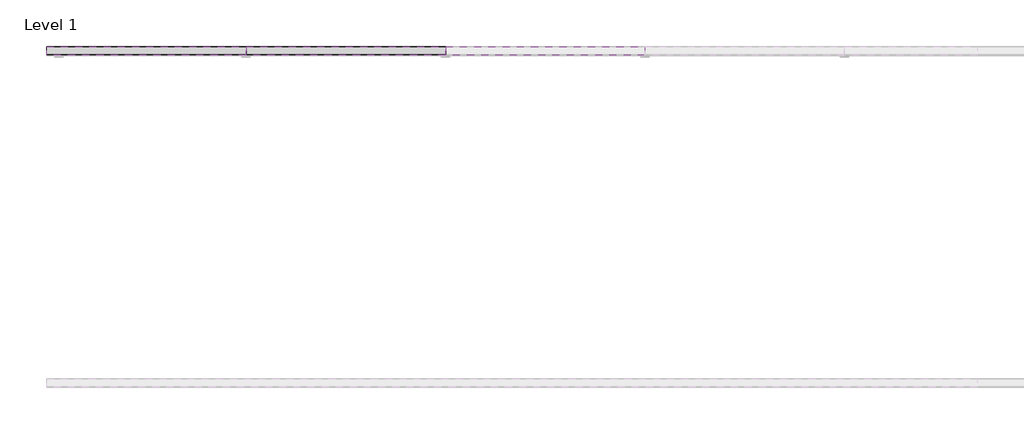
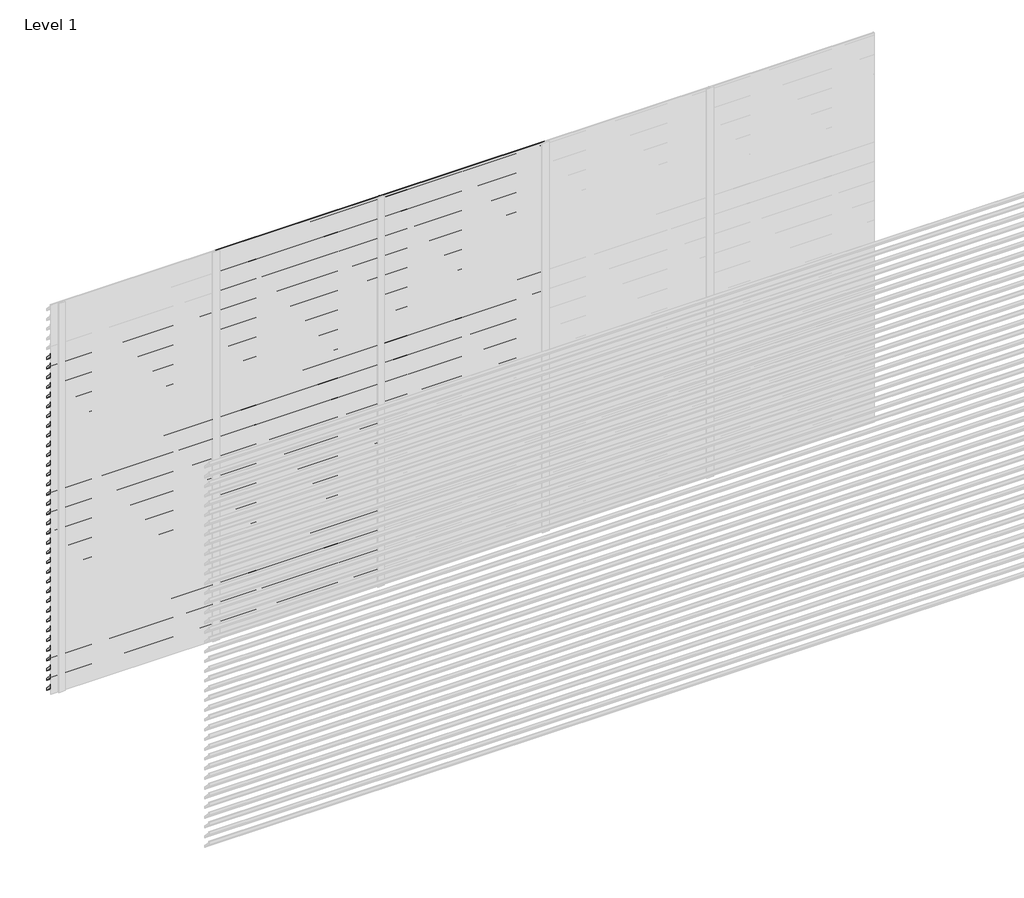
# One storey, part 10 of 11: 98 proxies.
"""IFC4 building model written with IfcOpenShell, lengths in millimetres."""

from ifc_helpers import new_model, si_unit, frame, origin, place, context, project, spatial, polyline, outline, extrude, element, save

model = new_model("IFC4")

# Units and contexts
model_context = context("Model", 3, world=origin())
ifc_project = project(units=[si_unit("LENGTHUNIT", "METRE", prefix="MILLI")], contexts=[model_context])

# Site, building, storey
site = spatial("IfcSite", under=ifc_project)
building = spatial("IfcBuilding", under=site)
storey = spatial("IfcBuildingStorey", under=building, Name="Level 1", Elevation=0.0)

# Proxies
placement = place(None, origin())
element("IfcBuildingElementProxy", 1, Name="Wall Sweeps", at=placement, inside=storey, context=model_context, shape_type="SweptSolid", body=[
    extrude(outline(polyline([(5.0, 2625.0), (5.0, 2615.7409854), (54.0, 2565.0), (54.0, 2549.0), (3.0, 2601.812046), (3.0, 2625.0), (5.0, 2625.0)])), frame((0.0, 0.0, 0.0), z_axis=(1.0, 0.0, 0.0), x_axis=(0.0, 1.0, 0.0)), (0.0, 0.0, 1.0), 1200.0),
])
element("IfcBuildingElementProxy", 2, Name="Wall Sweeps", at=placement, inside=storey, context=model_context, shape_type="SweptSolid", body=[
    extrude(outline(polyline([(5.0, 2550.0), (5.0, 2540.7409854), (54.0, 2490.0), (54.0, 2474.0), (3.0, 2526.812046), (3.0, 2550.0), (5.0, 2550.0)])), frame((0.0, 0.0, 0.0), z_axis=(1.0, 0.0, 0.0), x_axis=(0.0, 1.0, 0.0)), (0.0, 0.0, 1.0), 1200.0),
])
element("IfcBuildingElementProxy", 3, Name="Wall Sweeps", at=placement, inside=storey, context=model_context, shape_type="SweptSolid", body=[
    extrude(outline(polyline([(5.0, 2475.0), (5.0, 2465.7409854), (54.0, 2415.0), (54.0, 2399.0), (3.0, 2451.812046), (3.0, 2475.0), (5.0, 2475.0)])), frame((0.0, 0.0, 0.0), z_axis=(1.0, 0.0, 0.0), x_axis=(0.0, 1.0, 0.0)), (0.0, 0.0, 1.0), 1200.0),
])
element("IfcBuildingElementProxy", 4, Name="Wall Sweeps", at=placement, inside=storey, context=model_context, shape_type="SweptSolid", body=[
    extrude(outline(polyline([(5.0, 2400.0), (5.0, 2390.7409854), (54.0, 2340.0), (54.0, 2324.0), (3.0, 2376.812046), (3.0, 2400.0), (5.0, 2400.0)])), frame((0.0, 0.0, 0.0), z_axis=(1.0, 0.0, 0.0), x_axis=(0.0, 1.0, 0.0)), (0.0, 0.0, 1.0), 1200.0),
])
element("IfcBuildingElementProxy", 5, Name="Wall Sweeps", at=placement, inside=storey, context=model_context, shape_type="SweptSolid", body=[
    extrude(outline(polyline([(5.0, 2325.0), (5.0, 2315.7409854), (54.0, 2265.0), (54.0, 2249.0), (3.0, 2301.812046), (3.0, 2325.0), (5.0, 2325.0)])), frame((0.0, 0.0, 0.0), z_axis=(1.0, 0.0, 0.0), x_axis=(0.0, 1.0, 0.0)), (0.0, 0.0, 1.0), 1200.0),
])
element("IfcBuildingElementProxy", 6, Name="Wall Sweeps", at=placement, inside=storey, context=model_context, shape_type="SweptSolid", body=[
    extrude(outline(polyline([(5.0, 2250.0), (5.0, 2240.7409854), (54.0, 2190.0), (54.0, 2174.0), (3.0, 2226.812046), (3.0, 2250.0), (5.0, 2250.0)])), frame((0.0, 0.0, 0.0), z_axis=(1.0, 0.0, 0.0), x_axis=(0.0, 1.0, 0.0)), (0.0, 0.0, 1.0), 1200.0),
])
element("IfcBuildingElementProxy", 7, Name="Wall Sweeps", at=placement, inside=storey, context=model_context, shape_type="SweptSolid", body=[
    extrude(outline(polyline([(5.0, 2175.0), (5.0, 2165.7409854), (54.0, 2115.0), (54.0, 2099.0), (3.0, 2151.812046), (3.0, 2175.0), (5.0, 2175.0)])), frame((0.0, 0.0, 0.0), z_axis=(1.0, 0.0, 0.0), x_axis=(0.0, 1.0, 0.0)), (0.0, 0.0, 1.0), 1200.0),
])
element("IfcBuildingElementProxy", 8, Name="Wall Sweeps", at=placement, inside=storey, context=model_context, shape_type="SweptSolid", body=[
    extrude(outline(polyline([(5.0, 2100.0), (5.0, 2090.7409854), (54.0, 2040.0), (54.0, 2024.0), (3.0, 2076.812046), (3.0, 2100.0), (5.0, 2100.0)])), frame((0.0, 0.0, 0.0), z_axis=(1.0, 0.0, 0.0), x_axis=(0.0, 1.0, 0.0)), (0.0, 0.0, 1.0), 1200.0),
])
element("IfcBuildingElementProxy", 9, Name="Wall Sweeps", at=placement, inside=storey, context=model_context, shape_type="SweptSolid", body=[
    extrude(outline(polyline([(5.0, 2025.0), (5.0, 2015.7409854), (54.0, 1965.0), (54.0, 1949.0), (3.0, 2001.812046), (3.0, 2025.0), (5.0, 2025.0)])), frame((0.0, 0.0, 0.0), z_axis=(1.0, 0.0, 0.0), x_axis=(0.0, 1.0, 0.0)), (0.0, 0.0, 1.0), 1200.0),
])
element("IfcBuildingElementProxy", 10, Name="Wall Sweeps", at=placement, inside=storey, context=model_context, shape_type="SweptSolid", body=[
    extrude(outline(polyline([(5.0, 1950.0), (5.0, 1940.7409854), (54.0, 1890.0), (54.0, 1874.0), (3.0, 1926.812046), (3.0, 1950.0), (5.0, 1950.0)])), frame((0.0, 0.0, 0.0), z_axis=(1.0, 0.0, 0.0), x_axis=(0.0, 1.0, 0.0)), (0.0, 0.0, 1.0), 1200.0),
])
element("IfcBuildingElementProxy", 11, Name="Wall Sweeps", at=placement, inside=storey, context=model_context, shape_type="SweptSolid", body=[
    extrude(outline(polyline([(5.0, 1875.0), (5.0, 1865.7409854), (54.0, 1815.0), (54.0, 1799.0), (3.0, 1851.812046), (3.0, 1875.0), (5.0, 1875.0)])), frame((0.0, 0.0, 0.0), z_axis=(1.0, 0.0, 0.0), x_axis=(0.0, 1.0, 0.0)), (0.0, 0.0, 1.0), 1200.0),
])
element("IfcBuildingElementProxy", 12, Name="Wall Sweeps", at=placement, inside=storey, context=model_context, shape_type="SweptSolid", body=[
    extrude(outline(polyline([(5.0, 1800.0), (5.0, 1790.7409854), (54.0, 1740.0), (54.0, 1724.0), (3.0, 1776.812046), (3.0, 1800.0), (5.0, 1800.0)])), frame((0.0, 0.0, 0.0), z_axis=(1.0, 0.0, 0.0), x_axis=(0.0, 1.0, 0.0)), (0.0, 0.0, 1.0), 1200.0),
])
element("IfcBuildingElementProxy", 13, Name="Wall Sweeps", at=placement, inside=storey, context=model_context, shape_type="SweptSolid", body=[
    extrude(outline(polyline([(5.0, 1725.0), (5.0, 1715.7409854), (54.0, 1665.0), (54.0, 1649.0), (3.0, 1701.812046), (3.0, 1725.0), (5.0, 1725.0)])), frame((0.0, 0.0, 0.0), z_axis=(1.0, 0.0, 0.0), x_axis=(0.0, 1.0, 0.0)), (0.0, 0.0, 1.0), 1200.0),
])
element("IfcBuildingElementProxy", 14, Name="Wall Sweeps", at=placement, inside=storey, context=model_context, shape_type="SweptSolid", body=[
    extrude(outline(polyline([(5.0, 1650.0), (5.0, 1640.7409854), (54.0, 1590.0), (54.0, 1574.0), (3.0, 1626.812046), (3.0, 1650.0), (5.0, 1650.0)])), frame((0.0, 0.0, 0.0), z_axis=(1.0, 0.0, 0.0), x_axis=(0.0, 1.0, 0.0)), (0.0, 0.0, 1.0), 1200.0),
])
element("IfcBuildingElementProxy", 15, Name="Wall Sweeps", at=placement, inside=storey, context=model_context, shape_type="SweptSolid", body=[
    extrude(outline(polyline([(5.0, 1575.0), (5.0, 1565.7409854), (54.0, 1515.0), (54.0, 1499.0), (3.0, 1551.812046), (3.0, 1575.0), (5.0, 1575.0)])), frame((0.0, 0.0, 0.0), z_axis=(1.0, 0.0, 0.0), x_axis=(0.0, 1.0, 0.0)), (0.0, 0.0, 1.0), 1200.0),
])
element("IfcBuildingElementProxy", 16, Name="Wall Sweeps", at=placement, inside=storey, context=model_context, shape_type="SweptSolid", body=[
    extrude(outline(polyline([(5.0, 1500.0), (5.0, 1490.7409854), (54.0, 1440.0), (54.0, 1424.0), (3.0, 1476.812046), (3.0, 1500.0), (5.0, 1500.0)])), frame((0.0, 0.0, 0.0), z_axis=(1.0, 0.0, 0.0), x_axis=(0.0, 1.0, 0.0)), (0.0, 0.0, 1.0), 1200.0),
])
element("IfcBuildingElementProxy", 17, Name="Wall Sweeps", at=placement, inside=storey, context=model_context, shape_type="SweptSolid", body=[
    extrude(outline(polyline([(5.0, 1425.0), (5.0, 1415.7409854), (54.0, 1365.0), (54.0, 1349.0), (3.0, 1401.812046), (3.0, 1425.0), (5.0, 1425.0)])), frame((0.0, 0.0, 0.0), z_axis=(1.0, 0.0, 0.0), x_axis=(0.0, 1.0, 0.0)), (0.0, 0.0, 1.0), 1200.0),
])
element("IfcBuildingElementProxy", 18, Name="Wall Sweeps", at=placement, inside=storey, context=model_context, shape_type="SweptSolid", body=[
    extrude(outline(polyline([(5.0, 1350.0), (5.0, 1340.7409854), (54.0, 1290.0), (54.0, 1274.0), (3.0, 1326.812046), (3.0, 1350.0), (5.0, 1350.0)])), frame((0.0, 0.0, 0.0), z_axis=(1.0, 0.0, 0.0), x_axis=(0.0, 1.0, 0.0)), (0.0, 0.0, 1.0), 1200.0),
])
element("IfcBuildingElementProxy", 19, Name="Wall Sweeps", at=placement, inside=storey, context=model_context, shape_type="SweptSolid", body=[
    extrude(outline(polyline([(5.0, 1275.0), (5.0, 1265.7409854), (54.0, 1215.0), (54.0, 1199.0), (3.0, 1251.812046), (3.0, 1275.0), (5.0, 1275.0)])), frame((0.0, 0.0, 0.0), z_axis=(1.0, 0.0, 0.0), x_axis=(0.0, 1.0, 0.0)), (0.0, 0.0, 1.0), 1200.0),
])
element("IfcBuildingElementProxy", 20, Name="Wall Sweeps", at=placement, inside=storey, context=model_context, shape_type="SweptSolid", body=[
    extrude(outline(polyline([(5.0, 1200.0), (5.0, 1190.7409854), (54.0, 1140.0), (54.0, 1124.0), (3.0, 1176.812046), (3.0, 1200.0), (5.0, 1200.0)])), frame((0.0, 0.0, 0.0), z_axis=(1.0, 0.0, 0.0), x_axis=(0.0, 1.0, 0.0)), (0.0, 0.0, 1.0), 1200.0),
])
element("IfcBuildingElementProxy", 21, Name="Wall Sweeps", at=placement, inside=storey, context=model_context, shape_type="SweptSolid", body=[
    extrude(outline(polyline([(5.0, 1125.0), (5.0, 1115.7409854), (54.0, 1065.0), (54.0, 1049.0), (3.0, 1101.812046), (3.0, 1125.0), (5.0, 1125.0)])), frame((0.0, 0.0, 0.0), z_axis=(1.0, 0.0, 0.0), x_axis=(0.0, 1.0, 0.0)), (0.0, 0.0, 1.0), 1200.0),
])
element("IfcBuildingElementProxy", 22, Name="Wall Sweeps", at=placement, inside=storey, context=model_context, shape_type="SweptSolid", body=[
    extrude(outline(polyline([(5.0, 1050.0), (5.0, 1040.7409854), (54.0, 990.0), (54.0, 974.0), (3.0, 1026.812046), (3.0, 1050.0), (5.0, 1050.0)])), frame((0.0, 0.0, 0.0), z_axis=(1.0, 0.0, 0.0), x_axis=(0.0, 1.0, 0.0)), (0.0, 0.0, 1.0), 1200.0),
])
element("IfcBuildingElementProxy", 23, Name="Wall Sweeps", at=placement, inside=storey, context=model_context, shape_type="SweptSolid", body=[
    extrude(outline(polyline([(5.0, 975.0), (5.0, 965.7409854), (54.0, 915.0), (54.0, 899.0), (3.0, 951.812046), (3.0, 975.0), (5.0, 975.0)])), frame((0.0, 0.0, 0.0), z_axis=(1.0, 0.0, 0.0), x_axis=(0.0, 1.0, 0.0)), (0.0, 0.0, 1.0), 1200.0),
])
element("IfcBuildingElementProxy", 24, Name="Wall Sweeps", at=placement, inside=storey, context=model_context, shape_type="SweptSolid", body=[
    extrude(outline(polyline([(5.0, 900.0), (5.0, 890.7409854), (54.0, 840.0), (54.0, 824.0), (3.0, 876.812046), (3.0, 900.0), (5.0, 900.0)])), frame((0.0, 0.0, 0.0), z_axis=(1.0, 0.0, 0.0), x_axis=(0.0, 1.0, 0.0)), (0.0, 0.0, 1.0), 1200.0),
])
element("IfcBuildingElementProxy", 25, Name="Wall Sweeps", at=placement, inside=storey, context=model_context, shape_type="SweptSolid", body=[
    extrude(outline(polyline([(5.0, 825.0), (5.0, 815.7409854), (54.0, 765.0), (54.0, 749.0), (3.0, 801.812046), (3.0, 825.0), (5.0, 825.0)])), frame((0.0, 0.0, 0.0), z_axis=(1.0, 0.0, 0.0), x_axis=(0.0, 1.0, 0.0)), (0.0, 0.0, 1.0), 1200.0),
])
element("IfcBuildingElementProxy", 26, Name="Wall Sweeps", at=placement, inside=storey, context=model_context, shape_type="SweptSolid", body=[
    extrude(outline(polyline([(5.0, 750.0), (5.0, 740.7409854), (54.0, 690.0), (54.0, 674.0), (3.0, 726.812046), (3.0, 750.0), (5.0, 750.0)])), frame((0.0, 0.0, 0.0), z_axis=(1.0, 0.0, 0.0), x_axis=(0.0, 1.0, 0.0)), (0.0, 0.0, 1.0), 1200.0),
])
element("IfcBuildingElementProxy", 27, Name="Wall Sweeps", at=placement, inside=storey, context=model_context, shape_type="SweptSolid", body=[
    extrude(outline(polyline([(5.0, 675.0), (5.0, 665.7409854), (54.0, 615.0), (54.0, 599.0), (3.0, 651.812046), (3.0, 675.0), (5.0, 675.0)])), frame((0.0, 0.0, 0.0), z_axis=(1.0, 0.0, 0.0), x_axis=(0.0, 1.0, 0.0)), (0.0, 0.0, 1.0), 1200.0),
])
element("IfcBuildingElementProxy", 28, Name="Wall Sweeps", at=placement, inside=storey, context=model_context, shape_type="SweptSolid", body=[
    extrude(outline(polyline([(5.0, 600.0), (5.0, 590.7409854), (54.0, 540.0), (54.0, 524.0), (3.0, 576.812046), (3.0, 600.0), (5.0, 600.0)])), frame((0.0, 0.0, 0.0), z_axis=(1.0, 0.0, 0.0), x_axis=(0.0, 1.0, 0.0)), (0.0, 0.0, 1.0), 1200.0),
])
element("IfcBuildingElementProxy", 29, Name="Wall Sweeps", at=placement, inside=storey, context=model_context, shape_type="SweptSolid", body=[
    extrude(outline(polyline([(5.0, 525.0), (5.0, 515.7409854), (54.0, 465.0), (54.0, 449.0), (3.0, 501.812046), (3.0, 525.0), (5.0, 525.0)])), frame((0.0, 0.0, 0.0), z_axis=(1.0, 0.0, 0.0), x_axis=(0.0, 1.0, 0.0)), (0.0, 0.0, 1.0), 1200.0),
])
element("IfcBuildingElementProxy", 30, Name="Wall Sweeps", at=placement, inside=storey, context=model_context, shape_type="SweptSolid", body=[
    extrude(outline(polyline([(5.0, 450.0), (5.0, 440.7409854), (54.0, 390.0), (54.0, 374.0), (3.0, 426.812046), (3.0, 450.0), (5.0, 450.0)])), frame((0.0, 0.0, 0.0), z_axis=(1.0, 0.0, 0.0), x_axis=(0.0, 1.0, 0.0)), (0.0, 0.0, 1.0), 1200.0),
])
element("IfcBuildingElementProxy", 31, Name="Wall Sweeps", at=placement, inside=storey, context=model_context, shape_type="SweptSolid", body=[
    extrude(outline(polyline([(5.0, 375.0), (5.0, 365.7409854), (54.0, 315.0), (54.0, 299.0), (3.0, 351.812046), (3.0, 375.0), (5.0, 375.0)])), frame((0.0, 0.0, 0.0), z_axis=(1.0, 0.0, 0.0), x_axis=(0.0, 1.0, 0.0)), (0.0, 0.0, 1.0), 1200.0),
])
element("IfcBuildingElementProxy", 32, Name="Wall Sweeps", at=placement, inside=storey, context=model_context, shape_type="SweptSolid", body=[
    extrude(outline(polyline([(5.0, 300.0), (5.0, 290.7409854), (54.0, 240.0), (54.0, 224.0), (3.0, 276.812046), (3.0, 300.0), (5.0, 300.0)])), frame((0.0, 0.0, 0.0), z_axis=(1.0, 0.0, 0.0), x_axis=(0.0, 1.0, 0.0)), (0.0, 0.0, 1.0), 1200.0),
])
element("IfcBuildingElementProxy", 33, Name="Wall Sweeps", at=placement, inside=storey, context=model_context, shape_type="SweptSolid", body=[
    extrude(outline(polyline([(5.0, 225.0), (5.0, 215.7409854), (54.0, 165.0), (54.0, 149.0), (3.0, 201.812046), (3.0, 225.0), (5.0, 225.0)])), frame((0.0, 0.0, 0.0), z_axis=(1.0, 0.0, 0.0), x_axis=(0.0, 1.0, 0.0)), (0.0, 0.0, 1.0), 1200.0),
])
element("IfcBuildingElementProxy", 34, Name="Wall Sweeps", at=placement, inside=storey, context=model_context, shape_type="SweptSolid", body=[
    extrude(outline(polyline([(5.0, 150.0), (5.0, 140.7409854), (54.0, 90.0), (54.0, 74.0), (3.0, 126.812046), (3.0, 150.0), (5.0, 150.0)])), frame((0.0, 0.0, 0.0), z_axis=(1.0, 0.0, 0.0), x_axis=(0.0, 1.0, 0.0)), (0.0, 0.0, 1.0), 1200.0),
])
element("IfcBuildingElementProxy", 35, Name="Wall Sweeps", at=placement, inside=storey, context=model_context, shape_type="SweptSolid", body=[
    extrude(outline(polyline([(5.0, 75.0), (5.0, 65.7409854), (54.0, 15.0), (54.0, -1.0), (3.0, 51.812046), (3.0, 75.0), (5.0, 75.0)])), frame((0.0, 0.0, 0.0), z_axis=(1.0, 0.0, 0.0), x_axis=(0.0, 1.0, 0.0)), (0.0, 0.0, 1.0), 1200.0),
])
element("IfcBuildingElementProxy", 36, Name="Wall Sweeps", at=placement, inside=storey, context=model_context, shape_type="SweptSolid", body=[
    extrude(outline(polyline([(5.0, 3000.0), (5.0, 2990.7409854), (54.0, 2940.0), (54.0, 2924.0), (3.0, 2976.812046), (3.0, 3000.0), (5.0, 3000.0)])), frame((1200.0, 0.0, 0.0), z_axis=(1.0, 0.0, 0.0), x_axis=(0.0, 1.0, 0.0)), (0.0, 0.0, 1.0), 1200.0),
])
element("IfcBuildingElementProxy", 37, Name="Wall Sweeps", at=placement, inside=storey, context=model_context, shape_type="SweptSolid", body=[
    extrude(outline(polyline([(5.0, 2925.0), (5.0, 2915.7409854), (54.0, 2865.0), (54.0, 2849.0), (3.0, 2901.812046), (3.0, 2925.0), (5.0, 2925.0)])), frame((1200.0, 0.0, 0.0), z_axis=(1.0, 0.0, 0.0), x_axis=(0.0, 1.0, 0.0)), (0.0, 0.0, 1.0), 1200.0),
])
element("IfcBuildingElementProxy", 38, Name="Wall Sweeps", at=placement, inside=storey, context=model_context, shape_type="SweptSolid", body=[
    extrude(outline(polyline([(5.0, 2850.0), (5.0, 2840.7409854), (54.0, 2790.0), (54.0, 2774.0), (3.0, 2826.812046), (3.0, 2850.0), (5.0, 2850.0)])), frame((1200.0, 0.0, 0.0), z_axis=(1.0, 0.0, 0.0), x_axis=(0.0, 1.0, 0.0)), (0.0, 0.0, 1.0), 1200.0),
])
element("IfcBuildingElementProxy", 39, Name="Wall Sweeps", at=placement, inside=storey, context=model_context, shape_type="SweptSolid", body=[
    extrude(outline(polyline([(5.0, 2775.0), (5.0, 2765.7409854), (54.0, 2715.0), (54.0, 2699.0), (3.0, 2751.812046), (3.0, 2775.0), (5.0, 2775.0)])), frame((1200.0, 0.0, 0.0), z_axis=(1.0, 0.0, 0.0), x_axis=(0.0, 1.0, 0.0)), (0.0, 0.0, 1.0), 1200.0),
])
element("IfcBuildingElementProxy", 40, Name="Wall Sweeps", at=placement, inside=storey, context=model_context, shape_type="SweptSolid", body=[
    extrude(outline(polyline([(5.0, 2700.0), (5.0, 2690.7409854), (54.0, 2640.0), (54.0, 2624.0), (3.0, 2676.812046), (3.0, 2700.0), (5.0, 2700.0)])), frame((1200.0, 0.0, 0.0), z_axis=(1.0, 0.0, 0.0), x_axis=(0.0, 1.0, 0.0)), (0.0, 0.0, 1.0), 1200.0),
])
element("IfcBuildingElementProxy", 41, Name="Wall Sweeps", at=placement, inside=storey, context=model_context, shape_type="SweptSolid", body=[
    extrude(outline(polyline([(5.0, 2625.0), (5.0, 2615.7409854), (54.0, 2565.0), (54.0, 2549.0), (3.0, 2601.812046), (3.0, 2625.0), (5.0, 2625.0)])), frame((1200.0, 0.0, 0.0), z_axis=(1.0, 0.0, 0.0), x_axis=(0.0, 1.0, 0.0)), (0.0, 0.0, 1.0), 1200.0),
])
element("IfcBuildingElementProxy", 42, Name="Wall Sweeps", at=placement, inside=storey, context=model_context, shape_type="SweptSolid", body=[
    extrude(outline(polyline([(5.0, 2550.0), (5.0, 2540.7409854), (54.0, 2490.0), (54.0, 2474.0), (3.0, 2526.812046), (3.0, 2550.0), (5.0, 2550.0)])), frame((1200.0, 0.0, 0.0), z_axis=(1.0, 0.0, 0.0), x_axis=(0.0, 1.0, 0.0)), (0.0, 0.0, 1.0), 1200.0),
])
element("IfcBuildingElementProxy", 43, Name="Wall Sweeps", at=placement, inside=storey, context=model_context, shape_type="SweptSolid", body=[
    extrude(outline(polyline([(5.0, 2475.0), (5.0, 2465.7409854), (54.0, 2415.0), (54.0, 2399.0), (3.0, 2451.812046), (3.0, 2475.0), (5.0, 2475.0)])), frame((1200.0, 0.0, 0.0), z_axis=(1.0, 0.0, 0.0), x_axis=(0.0, 1.0, 0.0)), (0.0, 0.0, 1.0), 1200.0),
])
element("IfcBuildingElementProxy", 44, Name="Wall Sweeps", at=placement, inside=storey, context=model_context, shape_type="SweptSolid", body=[
    extrude(outline(polyline([(5.0, 2400.0), (5.0, 2390.7409854), (54.0, 2340.0), (54.0, 2324.0), (3.0, 2376.812046), (3.0, 2400.0), (5.0, 2400.0)])), frame((1200.0, 0.0, 0.0), z_axis=(1.0, 0.0, 0.0), x_axis=(0.0, 1.0, 0.0)), (0.0, 0.0, 1.0), 1200.0),
])
element("IfcBuildingElementProxy", 45, Name="Wall Sweeps", at=placement, inside=storey, context=model_context, shape_type="SweptSolid", body=[
    extrude(outline(polyline([(5.0, 2325.0), (5.0, 2315.7409854), (54.0, 2265.0), (54.0, 2249.0), (3.0, 2301.812046), (3.0, 2325.0), (5.0, 2325.0)])), frame((1200.0, 0.0, 0.0), z_axis=(1.0, 0.0, 0.0), x_axis=(0.0, 1.0, 0.0)), (0.0, 0.0, 1.0), 1200.0),
])
element("IfcBuildingElementProxy", 46, Name="Wall Sweeps", at=placement, inside=storey, context=model_context, shape_type="SweptSolid", body=[
    extrude(outline(polyline([(5.0, 2250.0), (5.0, 2240.7409854), (54.0, 2190.0), (54.0, 2174.0), (3.0, 2226.812046), (3.0, 2250.0), (5.0, 2250.0)])), frame((1200.0, 0.0, 0.0), z_axis=(1.0, 0.0, 0.0), x_axis=(0.0, 1.0, 0.0)), (0.0, 0.0, 1.0), 1200.0),
])
element("IfcBuildingElementProxy", 47, Name="Wall Sweeps", at=placement, inside=storey, context=model_context, shape_type="SweptSolid", body=[
    extrude(outline(polyline([(5.0, 2175.0), (5.0, 2165.7409854), (54.0, 2115.0), (54.0, 2099.0), (3.0, 2151.812046), (3.0, 2175.0), (5.0, 2175.0)])), frame((1200.0, 0.0, 0.0), z_axis=(1.0, 0.0, 0.0), x_axis=(0.0, 1.0, 0.0)), (0.0, 0.0, 1.0), 1200.0),
])
element("IfcBuildingElementProxy", 48, Name="Wall Sweeps", at=placement, inside=storey, context=model_context, shape_type="SweptSolid", body=[
    extrude(outline(polyline([(5.0, 2100.0), (5.0, 2090.7409854), (54.0, 2040.0), (54.0, 2024.0), (3.0, 2076.812046), (3.0, 2100.0), (5.0, 2100.0)])), frame((1200.0, 0.0, 0.0), z_axis=(1.0, 0.0, 0.0), x_axis=(0.0, 1.0, 0.0)), (0.0, 0.0, 1.0), 1200.0),
])
element("IfcBuildingElementProxy", 49, Name="Wall Sweeps", at=placement, inside=storey, context=model_context, shape_type="SweptSolid", body=[
    extrude(outline(polyline([(5.0, 2025.0), (5.0, 2015.7409854), (54.0, 1965.0), (54.0, 1949.0), (3.0, 2001.812046), (3.0, 2025.0), (5.0, 2025.0)])), frame((1200.0, 0.0, 0.0), z_axis=(1.0, 0.0, 0.0), x_axis=(0.0, 1.0, 0.0)), (0.0, 0.0, 1.0), 1200.0),
])
element("IfcBuildingElementProxy", 50, Name="Wall Sweeps", at=placement, inside=storey, context=model_context, shape_type="SweptSolid", body=[
    extrude(outline(polyline([(5.0, 1950.0), (5.0, 1940.7409854), (54.0, 1890.0), (54.0, 1874.0), (3.0, 1926.812046), (3.0, 1950.0), (5.0, 1950.0)])), frame((1200.0, 0.0, 0.0), z_axis=(1.0, 0.0, 0.0), x_axis=(0.0, 1.0, 0.0)), (0.0, 0.0, 1.0), 1200.0),
])
element("IfcBuildingElementProxy", 51, Name="Wall Sweeps", at=placement, inside=storey, context=model_context, shape_type="SweptSolid", body=[
    extrude(outline(polyline([(5.0, 1875.0), (5.0, 1865.7409854), (54.0, 1815.0), (54.0, 1799.0), (3.0, 1851.812046), (3.0, 1875.0), (5.0, 1875.0)])), frame((1200.0, 0.0, 0.0), z_axis=(1.0, 0.0, 0.0), x_axis=(0.0, 1.0, 0.0)), (0.0, 0.0, 1.0), 1200.0),
])
element("IfcBuildingElementProxy", 52, Name="Wall Sweeps", at=placement, inside=storey, context=model_context, shape_type="SweptSolid", body=[
    extrude(outline(polyline([(5.0, 1800.0), (5.0, 1790.7409854), (54.0, 1740.0), (54.0, 1724.0), (3.0, 1776.812046), (3.0, 1800.0), (5.0, 1800.0)])), frame((1200.0, 0.0, 0.0), z_axis=(1.0, 0.0, 0.0), x_axis=(0.0, 1.0, 0.0)), (0.0, 0.0, 1.0), 1200.0),
])
element("IfcBuildingElementProxy", 53, Name="Wall Sweeps", at=placement, inside=storey, context=model_context, shape_type="SweptSolid", body=[
    extrude(outline(polyline([(5.0, 1725.0), (5.0, 1715.7409854), (54.0, 1665.0), (54.0, 1649.0), (3.0, 1701.812046), (3.0, 1725.0), (5.0, 1725.0)])), frame((1200.0, 0.0, 0.0), z_axis=(1.0, 0.0, 0.0), x_axis=(0.0, 1.0, 0.0)), (0.0, 0.0, 1.0), 1200.0),
])
element("IfcBuildingElementProxy", 54, Name="Wall Sweeps", at=placement, inside=storey, context=model_context, shape_type="SweptSolid", body=[
    extrude(outline(polyline([(5.0, 1650.0), (5.0, 1640.7409854), (54.0, 1590.0), (54.0, 1574.0), (3.0, 1626.812046), (3.0, 1650.0), (5.0, 1650.0)])), frame((1200.0, 0.0, 0.0), z_axis=(1.0, 0.0, 0.0), x_axis=(0.0, 1.0, 0.0)), (0.0, 0.0, 1.0), 1200.0),
])
element("IfcBuildingElementProxy", 55, Name="Wall Sweeps", at=placement, inside=storey, context=model_context, shape_type="SweptSolid", body=[
    extrude(outline(polyline([(5.0, 1575.0), (5.0, 1565.7409854), (54.0, 1515.0), (54.0, 1499.0), (3.0, 1551.812046), (3.0, 1575.0), (5.0, 1575.0)])), frame((1200.0, 0.0, 0.0), z_axis=(1.0, 0.0, 0.0), x_axis=(0.0, 1.0, 0.0)), (0.0, 0.0, 1.0), 1200.0),
])
element("IfcBuildingElementProxy", 56, Name="Wall Sweeps", at=placement, inside=storey, context=model_context, shape_type="SweptSolid", body=[
    extrude(outline(polyline([(5.0, 1500.0), (5.0, 1490.7409854), (54.0, 1440.0), (54.0, 1424.0), (3.0, 1476.812046), (3.0, 1500.0), (5.0, 1500.0)])), frame((1200.0, 0.0, 0.0), z_axis=(1.0, 0.0, 0.0), x_axis=(0.0, 1.0, 0.0)), (0.0, 0.0, 1.0), 1200.0),
])
element("IfcBuildingElementProxy", 57, Name="Wall Sweeps", at=placement, inside=storey, context=model_context, shape_type="SweptSolid", body=[
    extrude(outline(polyline([(5.0, 1425.0), (5.0, 1415.7409854), (54.0, 1365.0), (54.0, 1349.0), (3.0, 1401.812046), (3.0, 1425.0), (5.0, 1425.0)])), frame((1200.0, 0.0, 0.0), z_axis=(1.0, 0.0, 0.0), x_axis=(0.0, 1.0, 0.0)), (0.0, 0.0, 1.0), 1200.0),
])
element("IfcBuildingElementProxy", 58, Name="Wall Sweeps", at=placement, inside=storey, context=model_context, shape_type="SweptSolid", body=[
    extrude(outline(polyline([(5.0, 1350.0), (5.0, 1340.7409854), (54.0, 1290.0), (54.0, 1274.0), (3.0, 1326.812046), (3.0, 1350.0), (5.0, 1350.0)])), frame((1200.0, 0.0, 0.0), z_axis=(1.0, 0.0, 0.0), x_axis=(0.0, 1.0, 0.0)), (0.0, 0.0, 1.0), 1200.0),
])
element("IfcBuildingElementProxy", 59, Name="Wall Sweeps", at=placement, inside=storey, context=model_context, shape_type="SweptSolid", body=[
    extrude(outline(polyline([(5.0, 1275.0), (5.0, 1265.7409854), (54.0, 1215.0), (54.0, 1199.0), (3.0, 1251.812046), (3.0, 1275.0), (5.0, 1275.0)])), frame((1200.0, 0.0, 0.0), z_axis=(1.0, 0.0, 0.0), x_axis=(0.0, 1.0, 0.0)), (0.0, 0.0, 1.0), 1200.0),
])
element("IfcBuildingElementProxy", 60, Name="Wall Sweeps", at=placement, inside=storey, context=model_context, shape_type="SweptSolid", body=[
    extrude(outline(polyline([(5.0, 1200.0), (5.0, 1190.7409854), (54.0, 1140.0), (54.0, 1124.0), (3.0, 1176.812046), (3.0, 1200.0), (5.0, 1200.0)])), frame((1200.0, 0.0, 0.0), z_axis=(1.0, 0.0, 0.0), x_axis=(0.0, 1.0, 0.0)), (0.0, 0.0, 1.0), 1200.0),
])
element("IfcBuildingElementProxy", 61, Name="Wall Sweeps", at=placement, inside=storey, context=model_context, shape_type="SweptSolid", body=[
    extrude(outline(polyline([(5.0, 1125.0), (5.0, 1115.7409854), (54.0, 1065.0), (54.0, 1049.0), (3.0, 1101.812046), (3.0, 1125.0), (5.0, 1125.0)])), frame((1200.0, 0.0, 0.0), z_axis=(1.0, 0.0, 0.0), x_axis=(0.0, 1.0, 0.0)), (0.0, 0.0, 1.0), 1200.0),
])
element("IfcBuildingElementProxy", 62, Name="Wall Sweeps", at=placement, inside=storey, context=model_context, shape_type="SweptSolid", body=[
    extrude(outline(polyline([(5.0, 1050.0), (5.0, 1040.7409854), (54.0, 990.0), (54.0, 974.0), (3.0, 1026.812046), (3.0, 1050.0), (5.0, 1050.0)])), frame((1200.0, 0.0, 0.0), z_axis=(1.0, 0.0, 0.0), x_axis=(0.0, 1.0, 0.0)), (0.0, 0.0, 1.0), 1200.0),
])
element("IfcBuildingElementProxy", 63, Name="Wall Sweeps", at=placement, inside=storey, context=model_context, shape_type="SweptSolid", body=[
    extrude(outline(polyline([(5.0, 975.0), (5.0, 965.7409854), (54.0, 915.0), (54.0, 899.0), (3.0, 951.812046), (3.0, 975.0), (5.0, 975.0)])), frame((1200.0, 0.0, 0.0), z_axis=(1.0, 0.0, 0.0), x_axis=(0.0, 1.0, 0.0)), (0.0, 0.0, 1.0), 1200.0),
])
element("IfcBuildingElementProxy", 64, Name="Wall Sweeps", at=placement, inside=storey, context=model_context, shape_type="SweptSolid", body=[
    extrude(outline(polyline([(5.0, 900.0), (5.0, 890.7409854), (54.0, 840.0), (54.0, 824.0), (3.0, 876.812046), (3.0, 900.0), (5.0, 900.0)])), frame((1200.0, 0.0, 0.0), z_axis=(1.0, 0.0, 0.0), x_axis=(0.0, 1.0, 0.0)), (0.0, 0.0, 1.0), 1200.0),
])
element("IfcBuildingElementProxy", 65, Name="Wall Sweeps", at=placement, inside=storey, context=model_context, shape_type="SweptSolid", body=[
    extrude(outline(polyline([(5.0, 825.0), (5.0, 815.7409854), (54.0, 765.0), (54.0, 749.0), (3.0, 801.812046), (3.0, 825.0), (5.0, 825.0)])), frame((1200.0, 0.0, 0.0), z_axis=(1.0, 0.0, 0.0), x_axis=(0.0, 1.0, 0.0)), (0.0, 0.0, 1.0), 1200.0),
])
element("IfcBuildingElementProxy", 66, Name="Wall Sweeps", at=placement, inside=storey, context=model_context, shape_type="SweptSolid", body=[
    extrude(outline(polyline([(5.0, 750.0), (5.0, 740.7409854), (54.0, 690.0), (54.0, 674.0), (3.0, 726.812046), (3.0, 750.0), (5.0, 750.0)])), frame((1200.0, 0.0, 0.0), z_axis=(1.0, 0.0, 0.0), x_axis=(0.0, 1.0, 0.0)), (0.0, 0.0, 1.0), 1200.0),
])
element("IfcBuildingElementProxy", 67, Name="Wall Sweeps", at=placement, inside=storey, context=model_context, shape_type="SweptSolid", body=[
    extrude(outline(polyline([(5.0, 675.0), (5.0, 665.7409854), (54.0, 615.0), (54.0, 599.0), (3.0, 651.812046), (3.0, 675.0), (5.0, 675.0)])), frame((1200.0, 0.0, 0.0), z_axis=(1.0, 0.0, 0.0), x_axis=(0.0, 1.0, 0.0)), (0.0, 0.0, 1.0), 1200.0),
])
element("IfcBuildingElementProxy", 68, Name="Wall Sweeps", at=placement, inside=storey, context=model_context, shape_type="SweptSolid", body=[
    extrude(outline(polyline([(5.0, 600.0), (5.0, 590.7409854), (54.0, 540.0), (54.0, 524.0), (3.0, 576.812046), (3.0, 600.0), (5.0, 600.0)])), frame((1200.0, 0.0, 0.0), z_axis=(1.0, 0.0, 0.0), x_axis=(0.0, 1.0, 0.0)), (0.0, 0.0, 1.0), 1200.0),
])
element("IfcBuildingElementProxy", 69, Name="Wall Sweeps", at=placement, inside=storey, context=model_context, shape_type="SweptSolid", body=[
    extrude(outline(polyline([(5.0, 525.0), (5.0, 515.7409854), (54.0, 465.0), (54.0, 449.0), (3.0, 501.812046), (3.0, 525.0), (5.0, 525.0)])), frame((1200.0, 0.0, 0.0), z_axis=(1.0, 0.0, 0.0), x_axis=(0.0, 1.0, 0.0)), (0.0, 0.0, 1.0), 1200.0),
])
element("IfcBuildingElementProxy", 70, Name="Wall Sweeps", at=placement, inside=storey, context=model_context, shape_type="SweptSolid", body=[
    extrude(outline(polyline([(5.0, 450.0), (5.0, 440.7409854), (54.0, 390.0), (54.0, 374.0), (3.0, 426.812046), (3.0, 450.0), (5.0, 450.0)])), frame((1200.0, 0.0, 0.0), z_axis=(1.0, 0.0, 0.0), x_axis=(0.0, 1.0, 0.0)), (0.0, 0.0, 1.0), 1200.0),
])
element("IfcBuildingElementProxy", 71, Name="Wall Sweeps", at=placement, inside=storey, context=model_context, shape_type="SweptSolid", body=[
    extrude(outline(polyline([(5.0, 375.0), (5.0, 365.7409854), (54.0, 315.0), (54.0, 299.0), (3.0, 351.812046), (3.0, 375.0), (5.0, 375.0)])), frame((1200.0, 0.0, 0.0), z_axis=(1.0, 0.0, 0.0), x_axis=(0.0, 1.0, 0.0)), (0.0, 0.0, 1.0), 1200.0),
])
element("IfcBuildingElementProxy", 72, Name="Wall Sweeps", at=placement, inside=storey, context=model_context, shape_type="SweptSolid", body=[
    extrude(outline(polyline([(5.0, 300.0), (5.0, 290.7409854), (54.0, 240.0), (54.0, 224.0), (3.0, 276.812046), (3.0, 300.0), (5.0, 300.0)])), frame((1200.0, 0.0, 0.0), z_axis=(1.0, 0.0, 0.0), x_axis=(0.0, 1.0, 0.0)), (0.0, 0.0, 1.0), 1200.0),
])
element("IfcBuildingElementProxy", 73, Name="Wall Sweeps", at=placement, inside=storey, context=model_context, shape_type="SweptSolid", body=[
    extrude(outline(polyline([(5.0, 225.0), (5.0, 215.7409854), (54.0, 165.0), (54.0, 149.0), (3.0, 201.812046), (3.0, 225.0), (5.0, 225.0)])), frame((1200.0, 0.0, 0.0), z_axis=(1.0, 0.0, 0.0), x_axis=(0.0, 1.0, 0.0)), (0.0, 0.0, 1.0), 1200.0),
])
element("IfcBuildingElementProxy", 74, Name="Wall Sweeps", at=placement, inside=storey, context=model_context, shape_type="SweptSolid", body=[
    extrude(outline(polyline([(5.0, 150.0), (5.0, 140.7409854), (54.0, 90.0), (54.0, 74.0), (3.0, 126.812046), (3.0, 150.0), (5.0, 150.0)])), frame((1200.0, 0.0, 0.0), z_axis=(1.0, 0.0, 0.0), x_axis=(0.0, 1.0, 0.0)), (0.0, 0.0, 1.0), 1200.0),
])
element("IfcBuildingElementProxy", 75, Name="Wall Sweeps", at=placement, inside=storey, context=model_context, shape_type="SweptSolid", body=[
    extrude(outline(polyline([(5.0, 75.0), (5.0, 65.7409854), (54.0, 15.0), (54.0, -1.0), (3.0, 51.812046), (3.0, 75.0), (5.0, 75.0)])), frame((1200.0, 0.0, 0.0), z_axis=(1.0, 0.0, 0.0), x_axis=(0.0, 1.0, 0.0)), (0.0, 0.0, 1.0), 1200.0),
])
element("IfcBuildingElementProxy", 76, Name="Wall Sweeps", at=placement, inside=storey, context=model_context, shape_type="SweptSolid", body=[
    extrude(outline(polyline([(5.0, 3000.0), (5.0, 2990.7409854), (54.0, 2940.0), (54.0, 2924.0), (3.0, 2976.812046), (3.0, 3000.0), (5.0, 3000.0)])), frame((2400.0, 0.0, 0.0), z_axis=(1.0, 0.0, 0.0), x_axis=(0.0, 1.0, 0.0)), (0.0, 0.0, 1.0), 1200.0),
])
element("IfcBuildingElementProxy", 77, Name="Wall Sweeps", at=placement, inside=storey, context=model_context, shape_type="SweptSolid", body=[
    extrude(outline(polyline([(5.0, 2925.0), (5.0, 2915.7409854), (54.0, 2865.0), (54.0, 2849.0), (3.0, 2901.812046), (3.0, 2925.0), (5.0, 2925.0)])), frame((2400.0, 0.0, 0.0), z_axis=(1.0, 0.0, 0.0), x_axis=(0.0, 1.0, 0.0)), (0.0, 0.0, 1.0), 1200.0),
])
element("IfcBuildingElementProxy", 78, Name="Wall Sweeps", at=placement, inside=storey, context=model_context, shape_type="SweptSolid", body=[
    extrude(outline(polyline([(5.0, 2850.0), (5.0, 2840.7409854), (54.0, 2790.0), (54.0, 2774.0), (3.0, 2826.812046), (3.0, 2850.0), (5.0, 2850.0)])), frame((2400.0, 0.0, 0.0), z_axis=(1.0, 0.0, 0.0), x_axis=(0.0, 1.0, 0.0)), (0.0, 0.0, 1.0), 1200.0),
])
element("IfcBuildingElementProxy", 79, Name="Wall Sweeps", at=placement, inside=storey, context=model_context, shape_type="SweptSolid", body=[
    extrude(outline(polyline([(5.0, 2775.0), (5.0, 2765.7409854), (54.0, 2715.0), (54.0, 2699.0), (3.0, 2751.812046), (3.0, 2775.0), (5.0, 2775.0)])), frame((2400.0, 0.0, 0.0), z_axis=(1.0, 0.0, 0.0), x_axis=(0.0, 1.0, 0.0)), (0.0, 0.0, 1.0), 1200.0),
])
element("IfcBuildingElementProxy", 80, Name="Wall Sweeps", at=placement, inside=storey, context=model_context, shape_type="SweptSolid", body=[
    extrude(outline(polyline([(5.0, 2700.0), (5.0, 2690.7409854), (54.0, 2640.0), (54.0, 2624.0), (3.0, 2676.812046), (3.0, 2700.0), (5.0, 2700.0)])), frame((2400.0, 0.0, 0.0), z_axis=(1.0, 0.0, 0.0), x_axis=(0.0, 1.0, 0.0)), (0.0, 0.0, 1.0), 1200.0),
])
element("IfcBuildingElementProxy", 81, Name="Wall Sweeps", at=placement, inside=storey, context=model_context, shape_type="SweptSolid", body=[
    extrude(outline(polyline([(5.0, 2625.0), (5.0, 2615.7409854), (54.0, 2565.0), (54.0, 2549.0), (3.0, 2601.812046), (3.0, 2625.0), (5.0, 2625.0)])), frame((2400.0, 0.0, 0.0), z_axis=(1.0, 0.0, 0.0), x_axis=(0.0, 1.0, 0.0)), (0.0, 0.0, 1.0), 1200.0),
])
element("IfcBuildingElementProxy", 82, Name="Wall Sweeps", at=placement, inside=storey, context=model_context, shape_type="SweptSolid", body=[
    extrude(outline(polyline([(5.0, 2550.0), (5.0, 2540.7409854), (54.0, 2490.0), (54.0, 2474.0), (3.0, 2526.812046), (3.0, 2550.0), (5.0, 2550.0)])), frame((2400.0, 0.0, 0.0), z_axis=(1.0, 0.0, 0.0), x_axis=(0.0, 1.0, 0.0)), (0.0, 0.0, 1.0), 1200.0),
])
element("IfcBuildingElementProxy", 83, Name="Wall Sweeps", at=placement, inside=storey, context=model_context, shape_type="SweptSolid", body=[
    extrude(outline(polyline([(5.0, 2475.0), (5.0, 2465.7409854), (54.0, 2415.0), (54.0, 2399.0), (3.0, 2451.812046), (3.0, 2475.0), (5.0, 2475.0)])), frame((2400.0, 0.0, 0.0), z_axis=(1.0, 0.0, 0.0), x_axis=(0.0, 1.0, 0.0)), (0.0, 0.0, 1.0), 1200.0),
])
element("IfcBuildingElementProxy", 84, Name="Wall Sweeps", at=placement, inside=storey, context=model_context, shape_type="SweptSolid", body=[
    extrude(outline(polyline([(5.0, 2400.0), (5.0, 2390.7409854), (54.0, 2340.0), (54.0, 2324.0), (3.0, 2376.812046), (3.0, 2400.0), (5.0, 2400.0)])), frame((2400.0, 0.0, 0.0), z_axis=(1.0, 0.0, 0.0), x_axis=(0.0, 1.0, 0.0)), (0.0, 0.0, 1.0), 1200.0),
])
element("IfcBuildingElementProxy", 85, Name="Wall Sweeps", at=placement, inside=storey, context=model_context, shape_type="SweptSolid", body=[
    extrude(outline(polyline([(5.0, 2325.0), (5.0, 2315.7409854), (54.0, 2265.0), (54.0, 2249.0), (3.0, 2301.812046), (3.0, 2325.0), (5.0, 2325.0)])), frame((2400.0, 0.0, 0.0), z_axis=(1.0, 0.0, 0.0), x_axis=(0.0, 1.0, 0.0)), (0.0, 0.0, 1.0), 1200.0),
])
element("IfcBuildingElementProxy", 86, Name="Wall Sweeps", at=placement, inside=storey, context=model_context, shape_type="SweptSolid", body=[
    extrude(outline(polyline([(5.0, 2250.0), (5.0, 2240.7409854), (54.0, 2190.0), (54.0, 2174.0), (3.0, 2226.812046), (3.0, 2250.0), (5.0, 2250.0)])), frame((2400.0, 0.0, 0.0), z_axis=(1.0, 0.0, 0.0), x_axis=(0.0, 1.0, 0.0)), (0.0, 0.0, 1.0), 1200.0),
])
element("IfcBuildingElementProxy", 87, Name="Wall Sweeps", at=placement, inside=storey, context=model_context, shape_type="SweptSolid", body=[
    extrude(outline(polyline([(5.0, 2175.0), (5.0, 2165.7409854), (54.0, 2115.0), (54.0, 2099.0), (3.0, 2151.812046), (3.0, 2175.0), (5.0, 2175.0)])), frame((2400.0, 0.0, 0.0), z_axis=(1.0, 0.0, 0.0), x_axis=(0.0, 1.0, 0.0)), (0.0, 0.0, 1.0), 1200.0),
])
element("IfcBuildingElementProxy", 88, Name="Wall Sweeps", at=placement, inside=storey, context=model_context, shape_type="SweptSolid", body=[
    extrude(outline(polyline([(5.0, 2100.0), (5.0, 2090.7409854), (54.0, 2040.0), (54.0, 2024.0), (3.0, 2076.812046), (3.0, 2100.0), (5.0, 2100.0)])), frame((2400.0, 0.0, 0.0), z_axis=(1.0, 0.0, 0.0), x_axis=(0.0, 1.0, 0.0)), (0.0, 0.0, 1.0), 1200.0),
])
element("IfcBuildingElementProxy", 89, Name="Wall Sweeps", at=placement, inside=storey, context=model_context, shape_type="SweptSolid", body=[
    extrude(outline(polyline([(5.0, 2025.0), (5.0, 2015.7409854), (54.0, 1965.0), (54.0, 1949.0), (3.0, 2001.812046), (3.0, 2025.0), (5.0, 2025.0)])), frame((2400.0, 0.0, 0.0), z_axis=(1.0, 0.0, 0.0), x_axis=(0.0, 1.0, 0.0)), (0.0, 0.0, 1.0), 1200.0),
])
element("IfcBuildingElementProxy", 90, Name="Wall Sweeps", at=placement, inside=storey, context=model_context, shape_type="SweptSolid", body=[
    extrude(outline(polyline([(5.0, 1950.0), (5.0, 1940.7409854), (54.0, 1890.0), (54.0, 1874.0), (3.0, 1926.812046), (3.0, 1950.0), (5.0, 1950.0)])), frame((2400.0, 0.0, 0.0), z_axis=(1.0, 0.0, 0.0), x_axis=(0.0, 1.0, 0.0)), (0.0, 0.0, 1.0), 1200.0),
])
element("IfcBuildingElementProxy", 91, Name="Wall Sweeps", at=placement, inside=storey, context=model_context, shape_type="SweptSolid", body=[
    extrude(outline(polyline([(5.0, 1875.0), (5.0, 1865.7409854), (54.0, 1815.0), (54.0, 1799.0), (3.0, 1851.812046), (3.0, 1875.0), (5.0, 1875.0)])), frame((2400.0, 0.0, 0.0), z_axis=(1.0, 0.0, 0.0), x_axis=(0.0, 1.0, 0.0)), (0.0, 0.0, 1.0), 1200.0),
])
element("IfcBuildingElementProxy", 92, Name="Wall Sweeps", at=placement, inside=storey, context=model_context, shape_type="SweptSolid", body=[
    extrude(outline(polyline([(5.0, 1800.0), (5.0, 1790.7409854), (54.0, 1740.0), (54.0, 1724.0), (3.0, 1776.812046), (3.0, 1800.0), (5.0, 1800.0)])), frame((2400.0, 0.0, 0.0), z_axis=(1.0, 0.0, 0.0), x_axis=(0.0, 1.0, 0.0)), (0.0, 0.0, 1.0), 1200.0),
])
element("IfcBuildingElementProxy", 93, Name="Wall Sweeps", at=placement, inside=storey, context=model_context, shape_type="SweptSolid", body=[
    extrude(outline(polyline([(5.0, 1725.0), (5.0, 1715.7409854), (54.0, 1665.0), (54.0, 1649.0), (3.0, 1701.812046), (3.0, 1725.0), (5.0, 1725.0)])), frame((2400.0, 0.0, 0.0), z_axis=(1.0, 0.0, 0.0), x_axis=(0.0, 1.0, 0.0)), (0.0, 0.0, 1.0), 1200.0),
])
element("IfcBuildingElementProxy", 94, Name="Wall Sweeps", at=placement, inside=storey, context=model_context, shape_type="SweptSolid", body=[
    extrude(outline(polyline([(5.0, 1650.0), (5.0, 1640.7409854), (54.0, 1590.0), (54.0, 1574.0), (3.0, 1626.812046), (3.0, 1650.0), (5.0, 1650.0)])), frame((2400.0, 0.0, 0.0), z_axis=(1.0, 0.0, 0.0), x_axis=(0.0, 1.0, 0.0)), (0.0, 0.0, 1.0), 1200.0),
])
element("IfcBuildingElementProxy", 95, Name="Wall Sweeps", at=placement, inside=storey, context=model_context, shape_type="SweptSolid", body=[
    extrude(outline(polyline([(5.0, 1575.0), (5.0, 1565.7409854), (54.0, 1515.0), (54.0, 1499.0), (3.0, 1551.812046), (3.0, 1575.0), (5.0, 1575.0)])), frame((2400.0, 0.0, 0.0), z_axis=(1.0, 0.0, 0.0), x_axis=(0.0, 1.0, 0.0)), (0.0, 0.0, 1.0), 1200.0),
])
element("IfcBuildingElementProxy", 96, Name="Wall Sweeps", at=placement, inside=storey, context=model_context, shape_type="SweptSolid", body=[
    extrude(outline(polyline([(5.0, 1500.0), (5.0, 1490.7409854), (54.0, 1440.0), (54.0, 1424.0), (3.0, 1476.812046), (3.0, 1500.0), (5.0, 1500.0)])), frame((2400.0, 0.0, 0.0), z_axis=(1.0, 0.0, 0.0), x_axis=(0.0, 1.0, 0.0)), (0.0, 0.0, 1.0), 1200.0),
])
element("IfcBuildingElementProxy", 97, Name="Wall Sweeps", at=placement, inside=storey, context=model_context, shape_type="SweptSolid", body=[
    extrude(outline(polyline([(5.0, 1425.0), (5.0, 1415.7409854), (54.0, 1365.0), (54.0, 1349.0), (3.0, 1401.812046), (3.0, 1425.0), (5.0, 1425.0)])), frame((2400.0, 0.0, 0.0), z_axis=(1.0, 0.0, 0.0), x_axis=(0.0, 1.0, 0.0)), (0.0, 0.0, 1.0), 1200.0),
])
element("IfcBuildingElementProxy", 98, Name="Wall Sweeps", at=placement, inside=storey, context=model_context, shape_type="SweptSolid", body=[
    extrude(outline(polyline([(5.0, 1350.0), (5.0, 1340.7409854), (54.0, 1290.0), (54.0, 1274.0), (3.0, 1326.812046), (3.0, 1350.0), (5.0, 1350.0)])), frame((2400.0, 0.0, 0.0), z_axis=(1.0, 0.0, 0.0), x_axis=(0.0, 1.0, 0.0)), (0.0, 0.0, 1.0), 1200.0),
])

save(model, "model.ifc")
